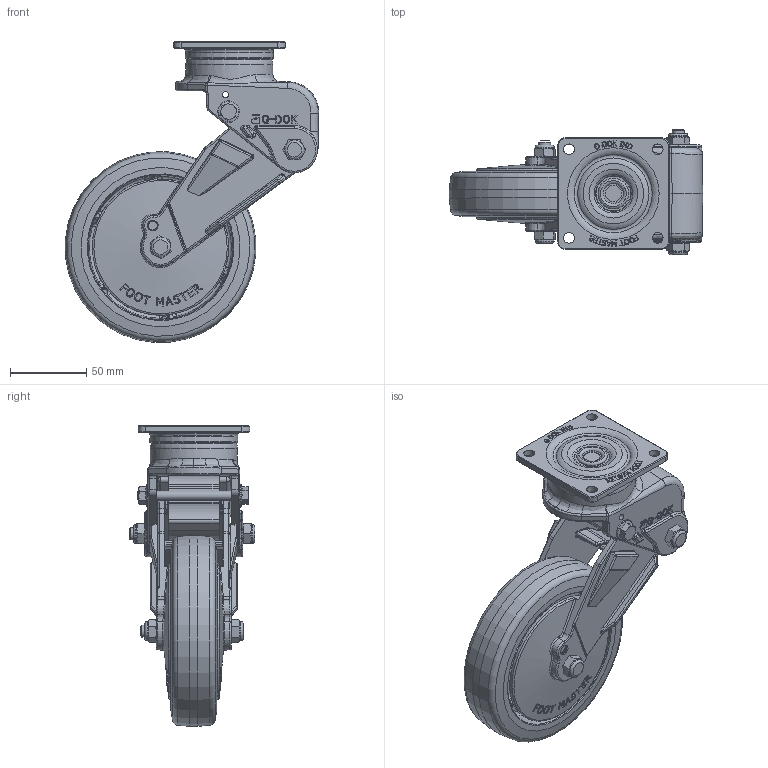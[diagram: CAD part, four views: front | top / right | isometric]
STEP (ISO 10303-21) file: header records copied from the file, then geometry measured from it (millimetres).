
FILE_DESCRIPTION(/* description */ (''),/* implementation_level */ '2;1');
FILE_NAME(/* name */ 'Z:\1.기술연구소\1.도면\제품도면\1.양산품\34.GDSB-SERIES\2.GDSB-125\1.진행도면\3.3D_홈페이지용 내부 간략화\내부 간략화\홈페이지 3D 도면\GDSB-125-ASF(ARF)-LUD.stp',/* time_stamp */ '2022-08-20T10:11:36+09:00',/* author */ ('admin'),/* organization */ (''),/* preprocessor_version */ 'ST-DEVELOPER v18.1',/* originating_system */ 'Autodesk Inventor 2021',/* authorisation */ '');
FILE_SCHEMA (('AUTOMOTIVE_DESIGN { 1 0 10303 214 3 1 1 }'));
Length unit declared in the file: millimetre
Products named in the file (1): GDSB-125-ASF(ARF)-LUD
Bounding box: 165.85 x 82 x 196.81 mm (x, y, z)
Volume: 472778.6 mm3; surface area: 146667.4 mm2
Topology: 1 solids, 2 shells, 2684 faces, 6691 edges, 4058 vertices
Faces by surface type: bspline 942, plane 917, cylinder 386, torus 195, cone 192, sphere 52
Full cylindrical faces by diameter (mm): 4.2 x2, 6 x2, 6.2 x2, 7 x4, 7.4 x1, 7.95 x5, 8 x1, 8.2 x2, 9.95 x1, 10.2 x4, 10.7 x1, 11.6 x2, 12.5 x4, 14 x2, 20 x2, 55.898 x2, 57 x1, 125 x1
Entity records: 110099 total; most frequent: CARTESIAN_POINT 48772, ORIENTED_EDGE 13234, DIRECTION 10660, EDGE_CURVE 6617, VERTEX_POINT 4058, AXIS2_PLACEMENT_3D 4018, EDGE_LOOP 2838, FACE_OUTER_BOUND 2684
